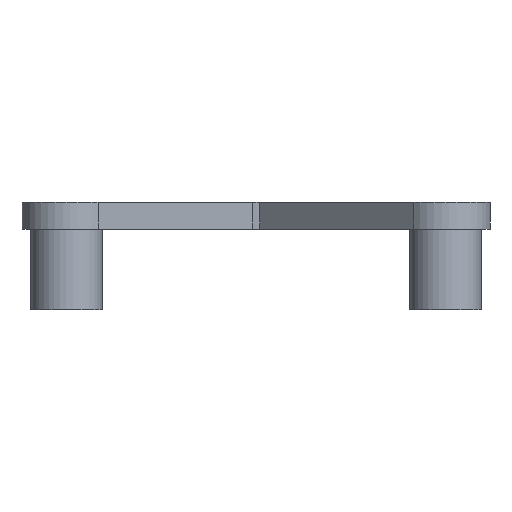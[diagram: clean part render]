
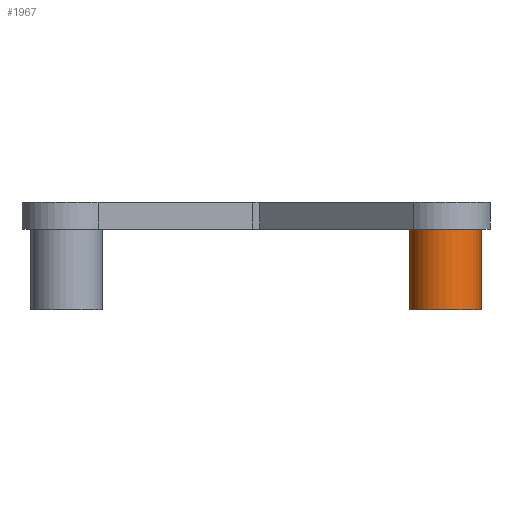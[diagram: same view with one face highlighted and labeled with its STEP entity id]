
A CAD part, left-side view. The second image highlights one B-rep face of the part: STEP entity #1967.
In plain terms, the highlighted cylindrical face has radius 4 mm (diameter 8 mm), a full revolution.
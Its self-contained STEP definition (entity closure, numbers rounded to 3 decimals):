
#37=CYLINDRICAL_SURFACE('',#2114,4.);
#155=FACE_OUTER_BOUND('',#269,.T.);
#269=EDGE_LOOP('',(#1429,#1430,#1431,#1432));
#413=LINE('',#2997,#613);
#613=VECTOR('',#2381,4.);
#802=CIRCLE('',#2115,4.);
#803=CIRCLE('',#2116,4.);
#917=VERTEX_POINT('',#2994);
#918=VERTEX_POINT('',#2996);
#1118=EDGE_CURVE('',#917,#917,#802,.T.);
#1119=EDGE_CURVE('',#917,#918,#413,.T.);
#1120=EDGE_CURVE('',#918,#918,#803,.F.);
#1429=ORIENTED_EDGE('',*,*,#1118,.F.);
#1430=ORIENTED_EDGE('',*,*,#1119,.T.);
#1431=ORIENTED_EDGE('',*,*,#1120,.T.);
#1432=ORIENTED_EDGE('',*,*,#1119,.F.);
#1967=ADVANCED_FACE('',(#155),#37,.T.);
#2114=AXIS2_PLACEMENT_3D('',#2993,#2377,#2378);
#2115=AXIS2_PLACEMENT_3D('',#2995,#2379,#2380);
#2116=AXIS2_PLACEMENT_3D('',#2998,#2382,#2383);
#2377=DIRECTION('center_axis',(0.,0.,1.));
#2378=DIRECTION('ref_axis',(-1.,0.,0.));
#2379=DIRECTION('center_axis',(0.,0.,-1.));
#2380=DIRECTION('ref_axis',(-1.,0.,0.));
#2381=DIRECTION('',(0.,0.,1.));
#2382=DIRECTION('center_axis',(0.,0.,1.));
#2383=DIRECTION('ref_axis',(-1.,0.,0.));
#2993=CARTESIAN_POINT('Origin',(-49.963,-81.213,-15.));
#2994=CARTESIAN_POINT('',(-45.963,-81.213,-24.));
#2995=CARTESIAN_POINT('Origin',(-49.963,-81.213,-24.));
#2996=CARTESIAN_POINT('',(-45.963,-81.213,-15.));
#2997=CARTESIAN_POINT('',(-45.963,-81.213,-15.));
#2998=CARTESIAN_POINT('Origin',(-49.963,-81.213,-15.));
